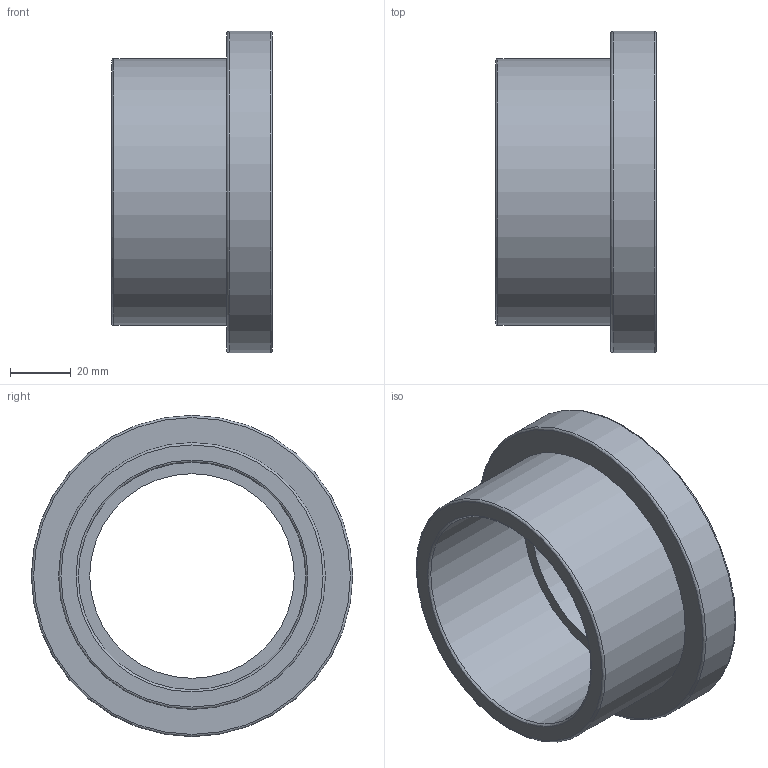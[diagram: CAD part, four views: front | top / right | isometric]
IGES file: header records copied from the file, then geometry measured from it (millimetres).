
Global section: file name: 055000075.ipt; native system: Autodesk Inventor 2015; preprocessor: unknown; author: KIM; date: 20171207.165712; units: millimetre
Bounding box: 53 x 106 x 106 mm (x, y, z)
Volume: 129649.3 mm3; surface area: 39923.1 mm2
Topology: 1 solids, 1 shells, 21 faces, 60 edges, 45 vertices
Faces by surface type: revolution 12, plane 6, cylinder 3
Full cylindrical faces by diameter (mm): 80.975 x1, 88 x1, 106 x1
